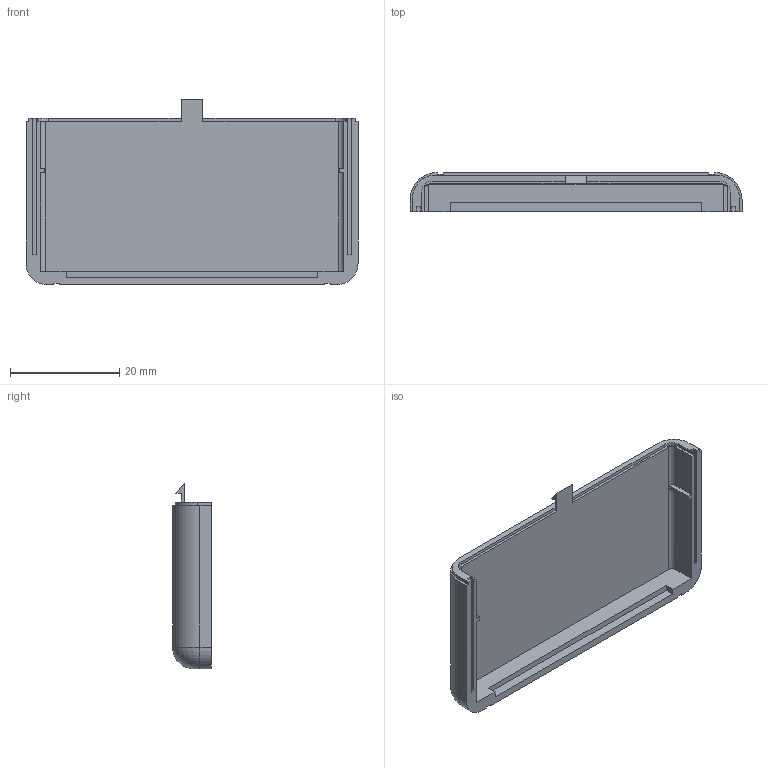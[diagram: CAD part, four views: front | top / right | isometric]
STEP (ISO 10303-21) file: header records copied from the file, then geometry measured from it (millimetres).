
FILE_DESCRIPTION (( 'STEP AP214' ), '1' );
FILE_NAME ('Tapa Trasera PP64A.STEP', '2017-08-24T10:02:29', ( 'aaa' ), ( '' ), 'SwSTEP 2.0', 'SolidWorks 2013', '' );
FILE_SCHEMA (( 'AUTOMOTIVE_DESIGN' ));
Length unit declared in the file: millimetre
Products named in the file (1): Tapa Trasera PP64A
Bounding box: 60.7 x 7.1 x 34 mm (x, y, z)
Volume: 4664.1 mm3; surface area: 5157.7 mm2
Topology: 1 solids, 1 shells, 76 faces, 216 edges, 142 vertices
Faces by surface type: plane 59, cylinder 15, torus 2
Entity records: 2482 total; most frequent: CARTESIAN_POINT 435, ORIENTED_EDGE 432, DIRECTION 406, EDGE_CURVE 216, LINE 180, VECTOR 180, VERTEX_POINT 142, AXIS2_PLACEMENT_3D 113
